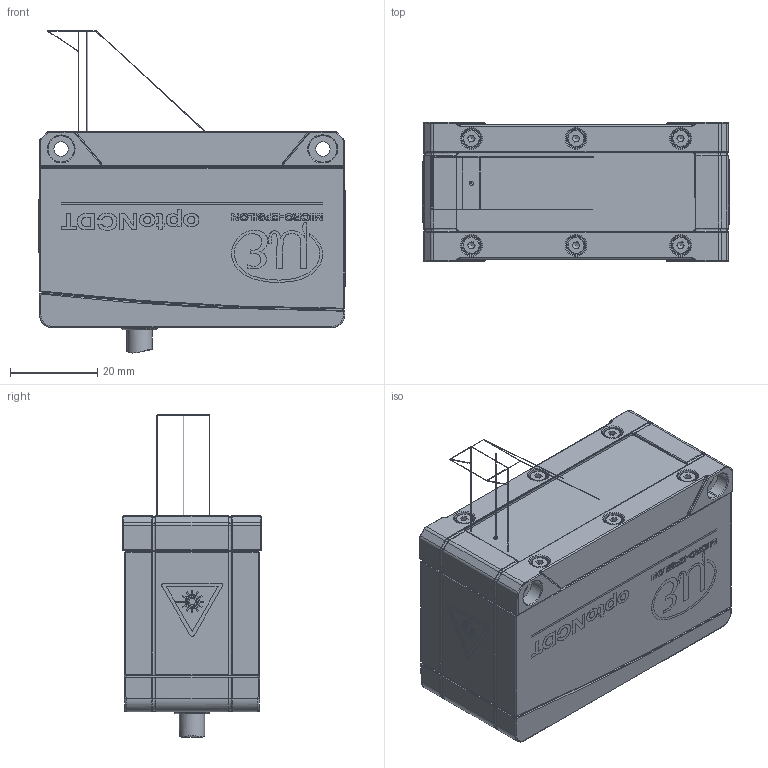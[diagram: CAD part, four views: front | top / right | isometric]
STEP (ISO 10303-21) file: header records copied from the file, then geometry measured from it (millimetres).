
FILE_DESCRIPTION (( 'STEP AP214' ), '1' );
FILE_NAME ('free_space_optoNCDT_1900-06.STEP', '2022-04-12T07:25:54', ( '' ), ( '' ), 'SwSTEP 2.0', 'SolidWorks 2020', '' );
FILE_SCHEMA (( 'AUTOMOTIVE_DESIGN' ));
Length unit declared in the file: millimetre
Products named in the file (1): free_space_optoNCDT_1900-06
Bounding box: 70.19 x 32 x 73.84 mm (x, y, z)
Volume: 95766.6 mm3; surface area: 15493.3 mm2
Topology: 7 solids, 7 shells, 2092 faces, 5489 edges, 3543 vertices
Faces by surface type: plane 968, bspline 813, cylinder 201, cone 57, torus 45, sphere 8
Full cylindrical faces by diameter (mm): 0.1 x15, 0.3 x1, 1 x1, 2.4 x2, 3.3 x2, 3.8 x12, 4.3 x12, 5.8 x1, 6 x2, 7.5 x2, 8 x2
Entity records: 101031 total; most frequent: CARTESIAN_POINT 32977, ORIENTED_EDGE 10658, DIRECTION 6654, EDGE_CURVE 5329, VERTEX_POINT 3507, LINE 3124, VECTOR 3124, EDGE_LOOP 2348
